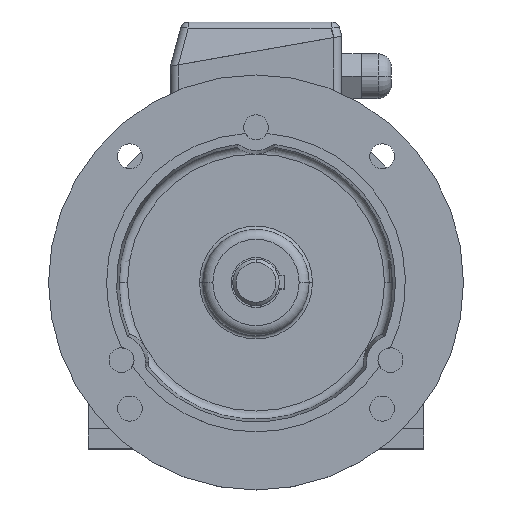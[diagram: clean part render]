
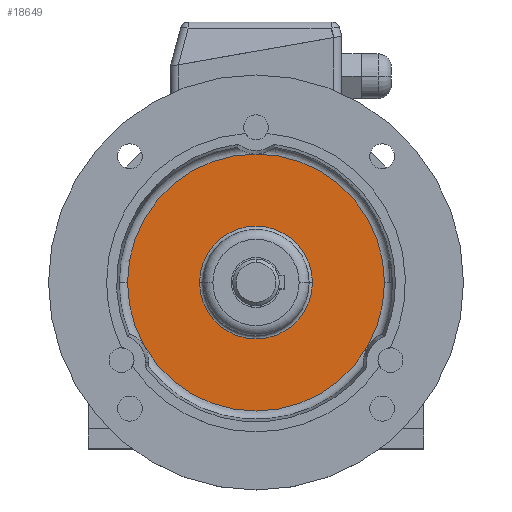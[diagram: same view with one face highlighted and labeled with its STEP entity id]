
A CAD part, top view. The second image highlights one B-rep face of the part: STEP entity #18649.
In plain terms, the highlighted planar face has unit normal (0, 0, 1).
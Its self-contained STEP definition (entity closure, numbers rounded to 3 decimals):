
#16603 = CIRCLE ( 'NONE', #16604, 34. ) ;
#16604 = AXIS2_PLACEMENT_3D ( 'NONE', #16605, #16606, #16614 ) ;
#16605 = CARTESIAN_POINT ( 'NONE',  ( 0., 0., 26. ) ) ;
#16606 = DIRECTION ( 'NONE',  ( 0., 0., -1. ) ) ;
#16614 = DIRECTION ( 'NONE',  ( -1., 0., 0. ) ) ;
#479 = EDGE_CURVE ( 'NONE', #17960, #17674, #11403, .T. ) ;
#595 = VERTEX_POINT ( 'NONE', #11798 ) ;
#642 = ORIENTED_EDGE ( 'NONE', *, *, #23888, .F. ) ;
#1276 = ORIENTED_EDGE ( 'NONE', *, *, #19140, .F. ) ;
#17674 = VERTEX_POINT ( 'NONE', #5165 ) ;
#17960 = VERTEX_POINT ( 'NONE', #5375 ) ;
#1930 = EDGE_LOOP ( 'NONE', ( #1276, #642 ) ) ;
#2223 = ORIENTED_EDGE ( 'NONE', *, *, #479, .T. ) ;
#18649 = ADVANCED_FACE ( 'NONE', ( #6043, #6044 ), #6045, .T. ) ;
#19140 = EDGE_CURVE ( 'NONE', #23695, #595, #6619, .T. ) ;
#2902 = EDGE_CURVE ( 'NONE', #17674, #17960, #16603, .T. ) ;
#3347 = ORIENTED_EDGE ( 'NONE', *, *, #2902, .T. ) ;
#3980 = EDGE_LOOP ( 'NONE', ( #3347, #2223 ) ) ;
#5165 = CARTESIAN_POINT ( 'NONE',  ( -34., 0., 26. ) ) ;
#5375 = CARTESIAN_POINT ( 'NONE',  ( 34., 0., 26. ) ) ;
#6043 = FACE_BOUND ( 'NONE', #3980, .T. ) ;
#6044 = FACE_OUTER_BOUND ( 'NONE', #1930, .T. ) ;
#6045 = PLANE ( 'NONE',  #6046 ) ;
#6046 = AXIS2_PLACEMENT_3D ( 'NONE', #6047, #6048, #6049 ) ;
#6047 = CARTESIAN_POINT ( 'NONE',  ( -77.406, 0., 26. ) ) ;
#6048 = DIRECTION ( 'NONE',  ( 0., 0., 1. ) ) ;
#6049 = DIRECTION ( 'NONE',  ( 1., 0., 0. ) ) ;
#6619 = CIRCLE ( 'NONE', #6620, 77.406 ) ;
#6620 = AXIS2_PLACEMENT_3D ( 'NONE', #6621, #6622, #6628 ) ;
#6621 = CARTESIAN_POINT ( 'NONE',  ( 0., 0., 26. ) ) ;
#6622 = DIRECTION ( 'NONE',  ( 0., 0., -1. ) ) ;
#6628 = DIRECTION ( 'NONE',  ( -1., 0., 0. ) ) ;
#23695 = VERTEX_POINT ( 'NONE', #12294 ) ;
#23888 = EDGE_CURVE ( 'NONE', #595, #23695, #12563, .T. ) ;
#11403 = CIRCLE ( 'NONE', #11404, 34. ) ;
#11404 = AXIS2_PLACEMENT_3D ( 'NONE', #11405, #11406, #11407 ) ;
#11405 = CARTESIAN_POINT ( 'NONE',  ( 0., 0., 26. ) ) ;
#11406 = DIRECTION ( 'NONE',  ( 0., 0., -1. ) ) ;
#11407 = DIRECTION ( 'NONE',  ( -1., 0., 0. ) ) ;
#11798 = CARTESIAN_POINT ( 'NONE',  ( 77.406, 0., 26. ) ) ;
#12294 = CARTESIAN_POINT ( 'NONE',  ( -77.406, 0., 26. ) ) ;
#12563 = CIRCLE ( 'NONE', #12564, 77.406 ) ;
#12564 = AXIS2_PLACEMENT_3D ( 'NONE', #12565, #12566, #12567 ) ;
#12565 = CARTESIAN_POINT ( 'NONE',  ( 0., 0., 26. ) ) ;
#12566 = DIRECTION ( 'NONE',  ( 0., 0., -1. ) ) ;
#12567 = DIRECTION ( 'NONE',  ( -1., 0., 0. ) ) ;
